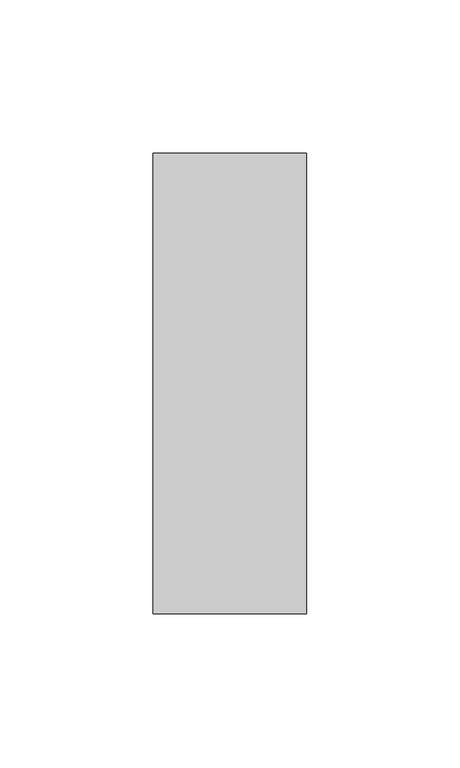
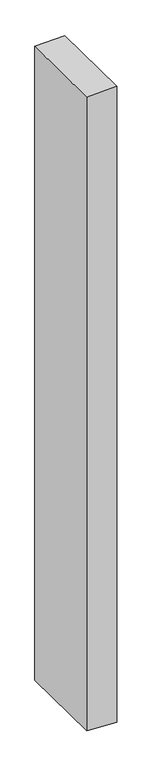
"""IFC4 building model written with IfcOpenShell, lengths in millimetres: member geometry, Прямоугольный импост : 50 x 150 мм."""

from ifc_helpers import new_model, si_unit, origin, place, context, project, spatial, faceted_brep, source, transform, mapped, element, save


def member_f6177b7e(model_context):
    return source(origin(), model_context, "Body", "Brep", [
        faceted_brep([(-25.0, 75.0, -1.4109562), (25.0, 75.0, 0.3195716), (25.0, 75.0, -1123.1300991), (-25.0, 75.0, -1121.1907273), (-25.0, -75.0, -0.3195716), (-25.0, -75.0, -1119.3808894), (25.0, -75.0, 1.4109562), (25.0, -75.0, -1121.3202612)], [[[0, 1, 2, 3]], [[4, 0, 3, 5]], [[6, 4, 5, 7]], [[1, 6, 7, 2]], [[1, 0, 4, 6]], [[2, 7, 5, 3]]]),
    ])


if __name__ == "__main__":
    model = new_model("IFC4")
    model_context = context("Model", 3, world=origin())
    ifc_project = project(units=[si_unit("LENGTHUNIT", "METRE", prefix="MILLI")], contexts=[model_context])
    site = spatial("IfcSite", under=ifc_project)
    building = spatial("IfcBuilding", under=site)
    placement = place(None, origin())
    member_shape = member_f6177b7e(model_context)
    element("IfcMember", 1, ObjectType="Прямоугольный импост : 50 x 150 мм", at=placement, inside=building, context=model_context, shape_type="MappedRepresentation", body=[
        mapped(member_shape, transform((0.0, 0.0, 0.0), x_axis=(1.0, 0.0, 0.0), y_axis=(0.0, 1.0, 0.0), z_axis=(0.0, 0.0, 1.0))),
    ])
    save(model, "model.ifc")
